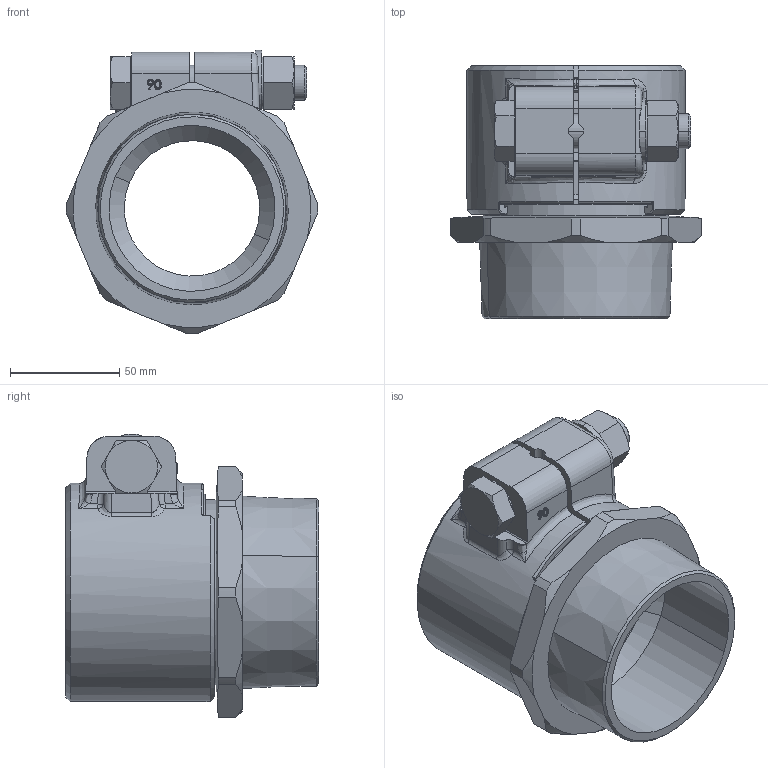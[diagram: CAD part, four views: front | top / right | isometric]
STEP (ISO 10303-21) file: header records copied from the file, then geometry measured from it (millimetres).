
FILE_DESCRIPTION (( 'STEP AP203' ), '1' );
FILE_NAME ('KP_C14-90M.step', '2011-08-08T12:03:38', ( '' ), ( '' ), 'SwSTEP 2.0', 'SolidWorks 2011', '' );
FILE_SCHEMA (( 'CONFIG_CONTROL_DESIGN' ));
Length unit declared in the file: millimetre
Products named in the file (1): KP_C14-90M
Bounding box: 114.99 x 116 x 130 mm (x, y, z)
Volume: 348785.7 mm3; surface area: 131209.4 mm2
Topology: 4 solids, 4 shells, 396 faces, 947 edges, 567 vertices
Faces by surface type: cylinder 110, plane 95, bspline 76, torus 60, cone 50, sphere 5
Entity records: 16534 total; most frequent: CARTESIAN_POINT 7922, ORIENTED_EDGE 1880, DIRECTION 1670, EDGE_CURVE 940, AXIS2_PLACEMENT_3D 685, VERTEX_POINT 565, EDGE_LOOP 417, ADVANCED_FACE 396
